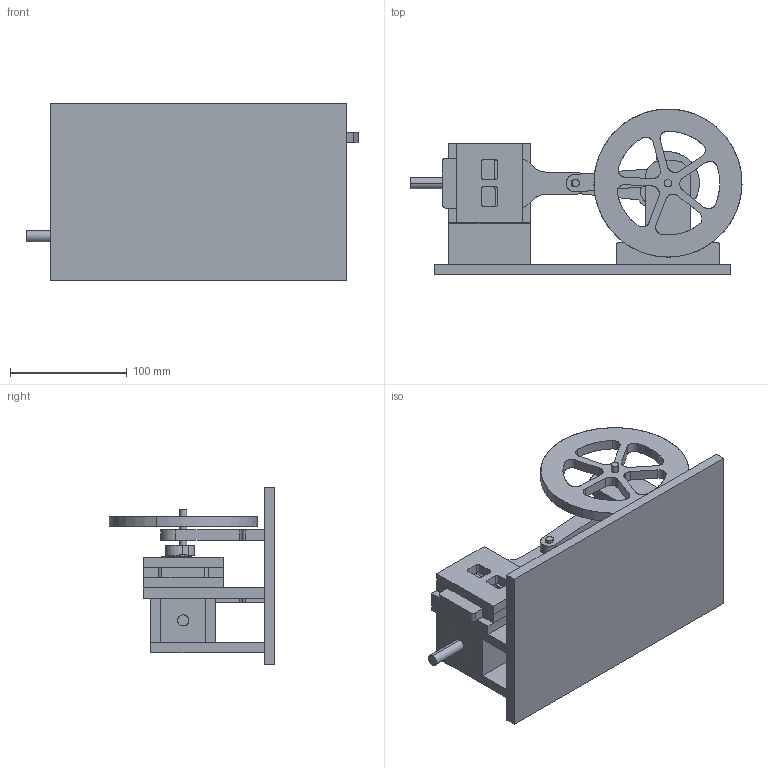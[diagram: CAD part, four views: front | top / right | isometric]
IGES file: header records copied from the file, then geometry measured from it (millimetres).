
Start section: SolidWorks IGES file using analytic representation for surfaces
Global section: file name: C:\Users\chris\Desktop\air_engine\Air_Engine_CKC2.IGS; native system: SolidWorks 2012; preprocessor: SolidWorks 2012; author: chris; date: 150416.200431; units: inch
Bounding box: 284.77 x 142.11 x 152.4 mm (x, y, z)
Surface area: 265374.3 mm2 (no closed solid volume)
Topology: 0 solids, 0 shells, 536 faces, 7566 edges, 7566 vertices
Faces by surface type: revolution 288, bspline 248
